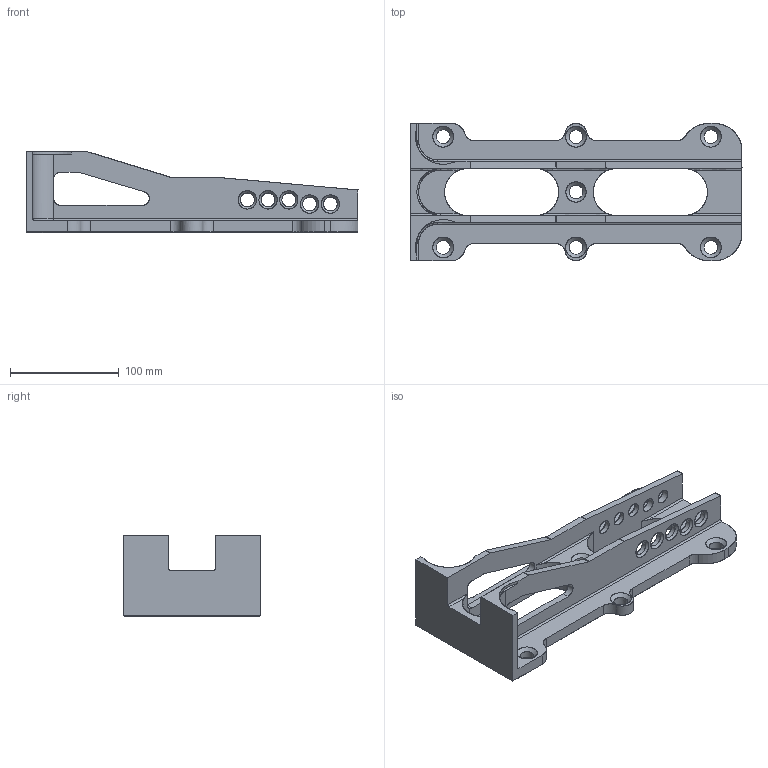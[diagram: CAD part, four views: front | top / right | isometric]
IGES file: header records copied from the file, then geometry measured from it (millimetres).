
Start section: CGTech. VERICUT, NC Verification Software
Global section: file name: U:\Test_Session\3d\vericut_demo.igs; native system: VERICUT; preprocessor: 5.3; author: UNKNOWN; organization: UNKNOWN; date: 1040429.144032; units: inch
Bounding box: 304.8 x 125.98 x 74.42 mm (x, y, z)
Surface area: 122617.8 mm2 (no closed solid volume)
Topology: 0 solids, 0 shells, 180 faces, 10772 edges, 10690 vertices
Faces by surface type: bspline 180
